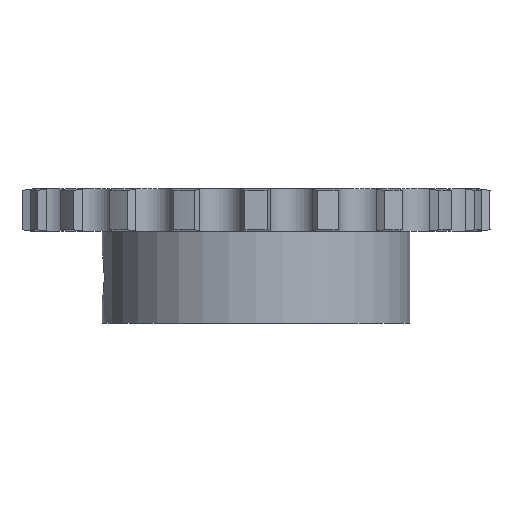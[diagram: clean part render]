
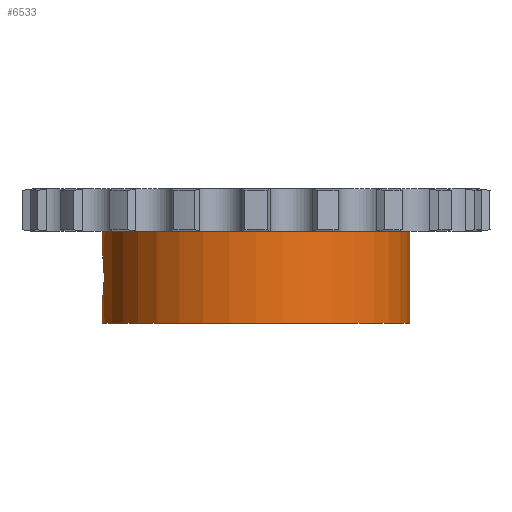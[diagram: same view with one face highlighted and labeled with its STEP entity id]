
A CAD part, front view. The second image highlights one B-rep face of the part: STEP entity #6533.
In plain terms, the highlighted cylindrical face has radius 40 mm (diameter 80 mm), a partial arc.
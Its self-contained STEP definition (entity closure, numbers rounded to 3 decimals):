
#1235=CARTESIAN_POINT('',(0.,0.,-5.55));
#1236=DIRECTION('',(0.,0.,1.));
#1237=DIRECTION('',(-1.,0.,0.));
#1238=AXIS2_PLACEMENT_3D('',#1235,#1236,#1237);
#3230=CARTESIAN_POINT('',(-40.,0.,
-11.5));
#3255=DIRECTION('',(0.,0.,1.));
#3256=VECTOR('',#3255,23.9);
#3257=CARTESIAN_POINT('',(40.,0.,-29.45));
#3258=LINE('',#3257,#3256);
#3385=CARTESIAN_POINT('',(0.,0.,-29.45));
#3386=DIRECTION('',(0.,0.,-1.));
#3387=DIRECTION('',(1.,0.,0.));
#3388=AXIS2_PLACEMENT_3D('',#3385,#3386,#3387);
#3414=CARTESIAN_POINT('',(-40.,0.,
-11.5));
#3415=CARTESIAN_POINT('',(-40.,-0.227,
-11.5));
#3416=CARTESIAN_POINT('',(-39.996,-0.71,
-11.526));
#3417=CARTESIAN_POINT('',(-39.976,-1.439,
-11.651));
#3418=CARTESIAN_POINT('',(-39.943,-2.173,
-11.872));
#3419=CARTESIAN_POINT('',(-39.899,-2.872,
-12.181));
#3420=CARTESIAN_POINT('',(-39.846,-3.528,
-12.572));
#3421=CARTESIAN_POINT('',(-39.788,-4.128,
-13.041));
#3422=CARTESIAN_POINT('',(-39.729,-4.661,
-13.575));
#3423=CARTESIAN_POINT('',(-39.672,-5.119,
-14.167));
#3424=CARTESIAN_POINT('',(-39.621,-5.5,
-14.808));
#3425=CARTESIAN_POINT('',(-39.578,-5.796,
-15.49));
#3426=CARTESIAN_POINT('',(-39.547,-6.004,
-16.198));
#3427=CARTESIAN_POINT('',(-39.53,-6.113,
-16.873));
#3428=CARTESIAN_POINT('',(-39.527,-6.134,
-17.307));
#3429=CARTESIAN_POINT('',(-39.527,-6.134,
-17.5));
#3434=DIRECTION('',(0.,0.,1.));
#3435=VECTOR('',#3434,5.95);
#3436=CARTESIAN_POINT('',(-40.,0.,
-11.5));
#3437=LINE('',#3436,#3435);
#3441=DIRECTION('',(0.,0.,1.));
#3442=VECTOR('',#3441,5.95);
#3443=CARTESIAN_POINT('',(-40.,0.,-29.45));
#3444=LINE('',#3443,#3442);
#3448=CARTESIAN_POINT('',(-39.527,-6.134,
-17.5));
#3449=CARTESIAN_POINT('',(-39.527,-6.134,
-17.705));
#3450=CARTESIAN_POINT('',(-39.53,-6.111,
-18.149));
#3451=CARTESIAN_POINT('',(-39.548,-5.996,
-18.833));
#3452=CARTESIAN_POINT('',(-39.58,-5.786,
-19.537));
#3453=CARTESIAN_POINT('',(-39.622,-5.487,
-20.215));
#3454=CARTESIAN_POINT('',(-39.674,-5.106,
-20.853));
#3455=CARTESIAN_POINT('',(-39.73,-4.647,
-21.44));
#3456=CARTESIAN_POINT('',(-39.789,-4.114,
-21.971));
#3457=CARTESIAN_POINT('',(-39.847,-3.515,
-22.436));
#3458=CARTESIAN_POINT('',(-39.899,-2.861,
-22.825));
#3459=CARTESIAN_POINT('',(-39.944,-2.164,
-23.131));
#3460=CARTESIAN_POINT('',(-39.977,-1.433,
-23.35));
#3461=CARTESIAN_POINT('',(-39.996,-0.707,
-23.474));
#3462=CARTESIAN_POINT('',(-40.,-0.226,
-23.5));
#3463=CARTESIAN_POINT('',(-40.,0.,
-23.5));
#3835=CARTESIAN_POINT('',(-40.,0.,-29.45));
#3836=CARTESIAN_POINT('',(40.,0.,-29.45));
#3837=VERTEX_POINT('',#3835);
#3838=VERTEX_POINT('',#3836);
#3839=CARTESIAN_POINT('',(40.,0.,-5.55));
#3840=VERTEX_POINT('',#3839);
#3841=CARTESIAN_POINT('',(-40.,0.,-5.55));
#3842=VERTEX_POINT('',#3841);
#4050=VERTEX_POINT('',#3230);
#4053=VERTEX_POINT('',#3429);
#4055=VERTEX_POINT('',#3463);
#6517=CARTESIAN_POINT('',(0.,0.,5.55));
#6518=DIRECTION('',(0.,0.,1.));
#6519=DIRECTION('',(1.,0.,0.));
#6520=AXIS2_PLACEMENT_3D('',#6517,#6518,#6519);
#6521=CYLINDRICAL_SURFACE('',#6520,40.);
#6523=ORIENTED_EDGE('',*,*,#6522,.F.);
#6524=ORIENTED_EDGE('',*,*,#6179,.T.);
#6525=ORIENTED_EDGE('',*,*,#5402,.T.);
#6526=ORIENTED_EDGE('',*,*,#6176,.F.);
#6527=ORIENTED_EDGE('',*,*,#6503,.T.);
#6528=ORIENTED_EDGE('',*,*,#6172,.T.);
#6530=ORIENTED_EDGE('',*,*,#6529,.F.);
#6531=EDGE_LOOP('',(#6523,#6524,#6525,#6526,#6527,#6528,#6530));
#6532=FACE_OUTER_BOUND('',#6531,.F.);
#6533=ADVANCED_FACE('',(#6532),#6521,.T.);
#1239=CIRCLE('',#1238,40.);
#3389=CIRCLE('',#3388,40.);
#3430=B_SPLINE_CURVE_WITH_KNOTS('',3,(#3414,#3415,#3416,#3417,#3418,#3419,#3420,
#3421,#3422,#3423,#3424,#3425,#3426,#3427,#3428,#3429),.UNSPECIFIED.,.F.,.F.,(4,
1,1,1,1,1,1,1,1,1,1,1,1,4),(0.,0.07,0.149,
0.228,0.306,0.385,0.464,
0.542,0.621,0.7,0.778,
0.857,0.936,1.),.UNSPECIFIED.);
#3464=B_SPLINE_CURVE_WITH_KNOTS('',3,(#3448,#3449,#3450,#3451,#3452,#3453,#3454,
#3455,#3456,#3457,#3458,#3459,#3460,#3461,#3462,#3463),.UNSPECIFIED.,.F.,.F.,(4,
1,1,1,1,1,1,1,1,1,1,1,1,4),(0.,0.068,0.147,
0.225,0.303,0.382,0.46,
0.538,0.617,0.695,0.773,
0.852,0.93,1.),.UNSPECIFIED.);
#5402=EDGE_CURVE('',#3842,#3840,#1239,.T.);
#6172=EDGE_CURVE('',#3837,#4055,#3444,.T.);
#6176=EDGE_CURVE('',#3838,#3840,#3258,.T.);
#6179=EDGE_CURVE('',#4050,#3842,#3437,.T.);
#6503=EDGE_CURVE('',#3838,#3837,#3389,.T.);
#6522=EDGE_CURVE('',#4050,#4053,#3430,.T.);
#6529=EDGE_CURVE('',#4053,#4055,#3464,.T.);
